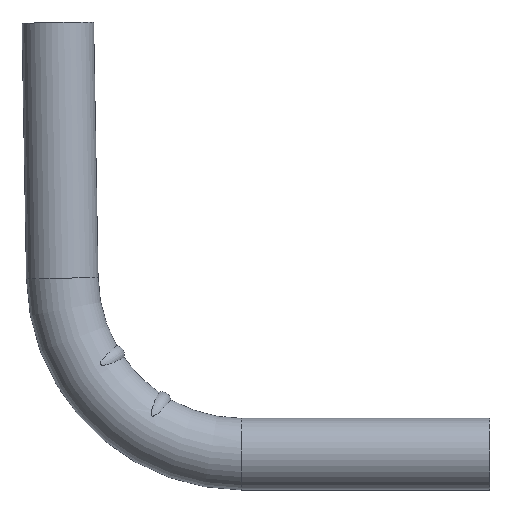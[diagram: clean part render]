
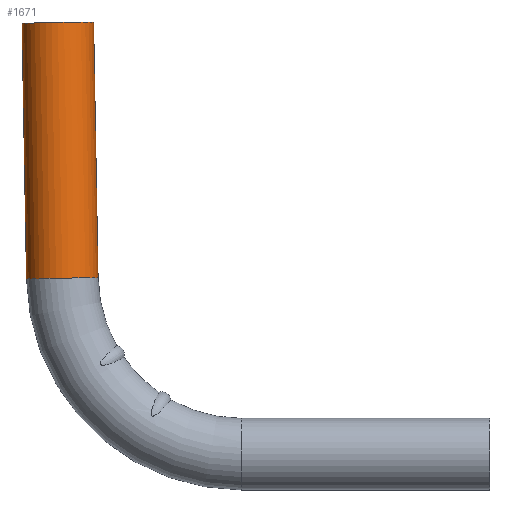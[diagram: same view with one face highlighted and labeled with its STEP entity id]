
A CAD part, top view. The second image highlights one B-rep face of the part: STEP entity #1671.
In plain terms, the highlighted cylindrical face has radius 37.5 mm (diameter 75 mm), a partial arc.
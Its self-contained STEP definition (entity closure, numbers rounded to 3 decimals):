
#9 = LINE ( 'NONE', #627, #1414 ) ;
#11 = ORIENTED_EDGE ( 'NONE', *, *, #326, .F. ) ;
#31 = DIRECTION ( 'NONE',  ( -0.017, 1., 0. ) ) ;
#155 = CARTESIAN_POINT ( 'NONE',  ( -274.982, 452.503, 0. ) ) ;
#170 = DIRECTION ( 'NONE',  ( -0.017, 1., 0. ) ) ;
#177 = CARTESIAN_POINT ( 'NONE',  ( -270.31, 184.882, 0. ) ) ;
#187 = EDGE_CURVE ( 'NONE', #369, #1512, #1687, .T. ) ;
#326 = EDGE_CURVE ( 'NONE', #1512, #1739, #953, .T. ) ;
#327 = CYLINDRICAL_SURFACE ( 'NONE', #1182, 37.5 ) ;
#369 = VERTEX_POINT ( 'NONE', #177 ) ;
#392 = ORIENTED_EDGE ( 'NONE', *, *, #1759, .T. ) ;
#409 = AXIS2_PLACEMENT_3D ( 'NONE', #827, #1456, #998 ) ;
#476 = ORIENTED_EDGE ( 'NONE', *, *, #187, .F. ) ;
#511 = CARTESIAN_POINT ( 'NONE',  ( -345.299, 183.573, 0. ) ) ;
#512 = DIRECTION ( 'NONE',  ( 0.017, -1., 0. ) ) ;
#619 = CARTESIAN_POINT ( 'NONE',  ( -349.97, 451.194, 0. ) ) ;
#627 = CARTESIAN_POINT ( 'NONE',  ( -270.31, 184.882, 0. ) ) ;
#696 = VERTEX_POINT ( 'NONE', #155 ) ;
#705 = DIRECTION ( 'NONE',  ( 0., 0., -1. ) ) ;
#799 = FACE_OUTER_BOUND ( 'NONE', #1175, .T. ) ;
#827 = CARTESIAN_POINT ( 'NONE',  ( -312.476, 451.848, 0. ) ) ;
#952 = CIRCLE ( 'NONE', #409, 37.5 ) ;
#953 = LINE ( 'NONE', #1901, #1624 ) ;
#958 = CARTESIAN_POINT ( 'NONE',  ( -307.805, 184.228, 0. ) ) ;
#998 = DIRECTION ( 'NONE',  ( -1., -0.017, 0. ) ) ;
#1111 = DIRECTION ( 'NONE',  ( -1., -0.017, 0. ) ) ;
#1175 = EDGE_LOOP ( 'NONE', ( #476, #392, #1318, #11 ) ) ;
#1182 = AXIS2_PLACEMENT_3D ( 'NONE', #958, #1425, #1111 ) ;
#1318 = ORIENTED_EDGE ( 'NONE', *, *, #1329, .F. ) ;
#1325 = AXIS2_PLACEMENT_3D ( 'NONE', #1617, #512, #705 ) ;
#1329 = EDGE_CURVE ( 'NONE', #1739, #696, #952, .T. ) ;
#1414 = VECTOR ( 'NONE', #31, 1000. ) ;
#1425 = DIRECTION ( 'NONE',  ( -0.017, 1., 0. ) ) ;
#1456 = DIRECTION ( 'NONE',  ( -0.017, 1., 0. ) ) ;
#1512 = VERTEX_POINT ( 'NONE', #511 ) ;
#1617 = CARTESIAN_POINT ( 'NONE',  ( -307.805, 184.228, 0. ) ) ;
#1624 = VECTOR ( 'NONE', #170, 1000. ) ;
#1671 = ADVANCED_FACE ( 'NONE', ( #799 ), #327, .T. ) ;
#1687 = CIRCLE ( 'NONE', #1325, 37.5 ) ;
#1739 = VERTEX_POINT ( 'NONE', #619 ) ;
#1759 = EDGE_CURVE ( 'NONE', #369, #696, #9, .T. ) ;
#1901 = CARTESIAN_POINT ( 'NONE',  ( -345.299, 183.573, 0. ) ) ;
